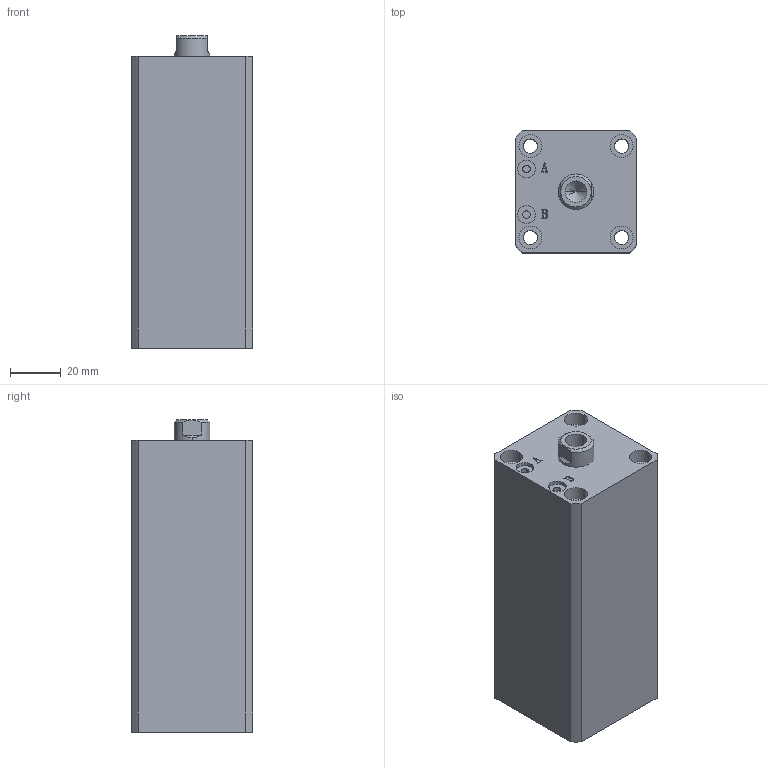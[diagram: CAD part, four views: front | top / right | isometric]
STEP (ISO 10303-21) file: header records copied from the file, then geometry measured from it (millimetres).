
FILE_DESCRIPTION (( 'STEP AP203' ), '1' );
FILE_NAME ('HTB-SDMA25-70N.STEP', '2019-10-07T11:06:41', ( '微软用户' ), ( '微软中国' ), 'SwSTEP 2.0', 'SolidWorks 2012', '' );
FILE_SCHEMA (( 'CONFIG_CONTROL_DESIGN' ));
Length unit declared in the file: millimetre
Products named in the file (3): HTB-SDMA25-70N; HTB-SDMA25-70N活塞杆; HTB-SDMA25-70掛极
Assembly tree (2 placements, depth 2):
  HTB-SDMA25-70N
    HTB-SDMA25-70掛极
    HTB-SDMA25-70N活塞杆
Bounding box: 48 x 48 x 123 mm (x, y, z)
Volume: 226378.8 mm3; surface area: 49873.1 mm2
Topology: 2 solids, 2 shells, 137 faces, 329 edges, 215 vertices
Faces by surface type: plane 65, cylinder 46, bspline 16, torus 6, cone 4
Entity records: 5072 total; most frequent: CARTESIAN_POINT 1592, ORIENTED_EDGE 654, DIRECTION 645, EDGE_CURVE 327, AXIS2_PLACEMENT_3D 232, VERTEX_POINT 215, VECTOR 181, LINE 181
